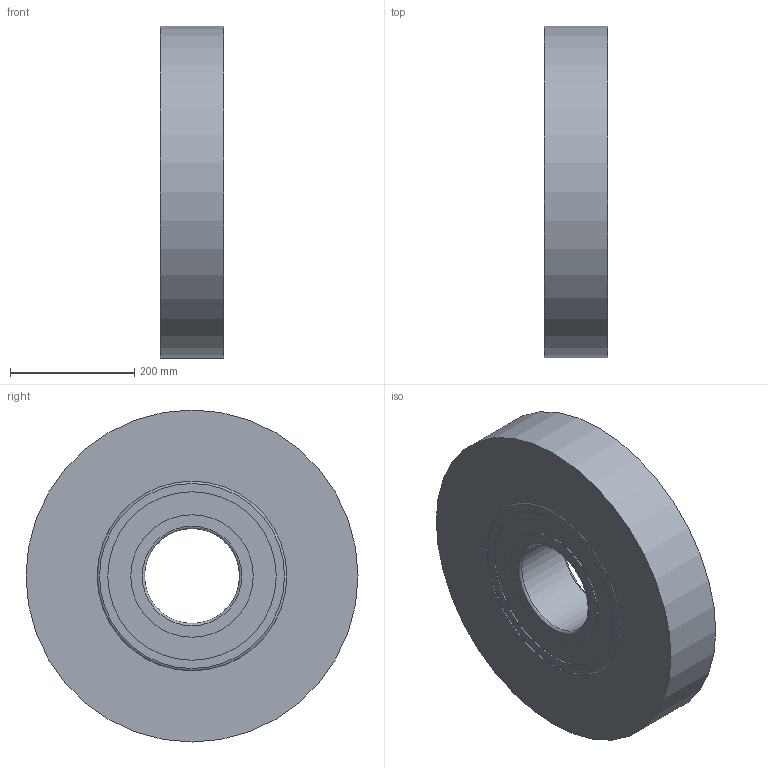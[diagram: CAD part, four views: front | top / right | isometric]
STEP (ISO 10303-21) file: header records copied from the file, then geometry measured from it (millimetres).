
FILE_DESCRIPTION((''),'1');
FILE_NAME('H:/図庫/国内ﾕﾆｯﾄ/ｶﾀﾛｸﾞ/ｺﾞﾑ直巻/ホームページ用ＣＡＤ図面/update用/3', '2017-07-14T09:03:43',(''), (''), 'KCM Version 1.1.1442.0', 'Kubotek KeyCreator', '');
FILE_SCHEMA(('AUTOMOTIVE_DESIGN'));
Length unit declared in the file: inch
Bounding box: 101.6 x 533.4 x 533.4 mm (x, y, z)
Surface area: 646685 mm2 (no closed solid volume)
Topology: 0 solids, 20 shells, 20 faces, 68 edges, 56 vertices
Faces by surface type: cylinder 8, plane 8, torus 4
Full cylindrical faces by diameter (mm): 152.4 x1, 196.85 x2, 270.51 x2, 304.8 x2, 533.4 x1
Entity records: 790 total; most frequent: DIRECTION 154, CARTESIAN_POINT 137, ORIENTED_EDGE 80, AXIS2_PLACEMENT_3D 73, EDGE_CURVE 68, VERTEX_POINT 56, CIRCLE 52, EDGE_LOOP 28
